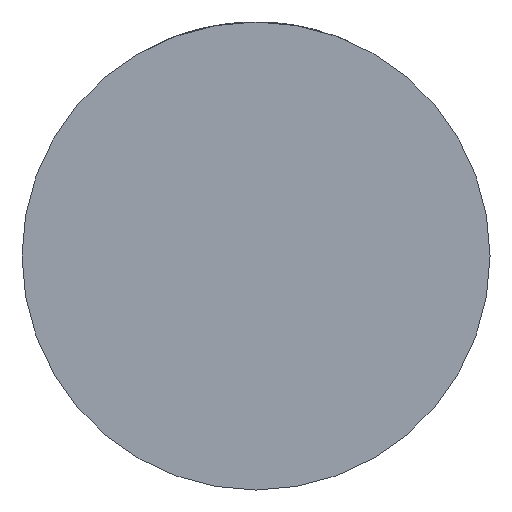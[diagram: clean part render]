
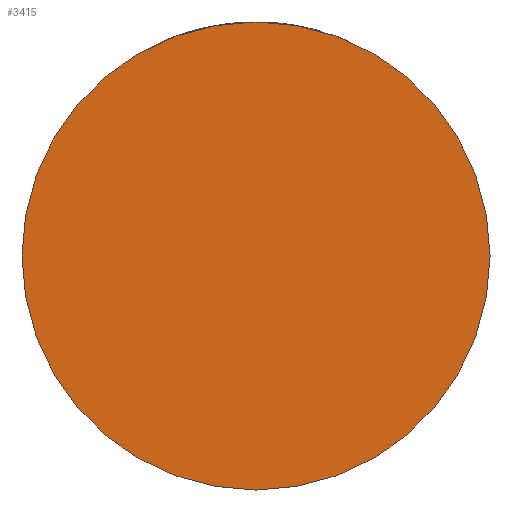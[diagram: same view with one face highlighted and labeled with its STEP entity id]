
A CAD part, front view. The second image highlights one B-rep face of the part: STEP entity #3415.
In plain terms, the highlighted planar face has unit normal (0, -1, 0).
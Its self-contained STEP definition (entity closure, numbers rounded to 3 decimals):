
#135 = VERTEX_POINT ( 'NONE', #4421 ) ;
#279 = DIRECTION ( 'NONE',  ( 1., 0., 0. ) ) ;
#595 = ORIENTED_EDGE ( 'NONE', *, *, #1478, .T. ) ;
#846 = CARTESIAN_POINT ( 'NONE',  ( 0., -25., 0. ) ) ;
#954 = AXIS2_PLACEMENT_3D ( 'NONE', #846, #3985, #2165 ) ;
#1216 = CARTESIAN_POINT ( 'NONE',  ( 0., -25., 0. ) ) ;
#1281 = VERTEX_POINT ( 'NONE', #2842 ) ;
#1478 = EDGE_CURVE ( 'NONE', #1281, #135, #2656, .T. ) ;
#1509 = PLANE ( 'NONE',  #3923 ) ;
#1804 = EDGE_LOOP ( 'NONE', ( #4397, #595 ) ) ;
#2034 = DIRECTION ( 'NONE',  ( 0., -1., 0. ) ) ;
#2165 = DIRECTION ( 'NONE',  ( 1., 0., 0. ) ) ;
#2379 = CARTESIAN_POINT ( 'NONE',  ( 0., -25., 0. ) ) ;
#2544 = DIRECTION ( 'NONE',  ( 1., 0., 0. ) ) ;
#2569 = DIRECTION ( 'NONE',  ( 0., -1., 0. ) ) ;
#2656 = CIRCLE ( 'NONE', #954, 32. ) ;
#2814 = EDGE_CURVE ( 'NONE', #135, #1281, #3556, .T. ) ;
#2842 = CARTESIAN_POINT ( 'NONE',  ( 32., -25., 0. ) ) ;
#3218 = FACE_OUTER_BOUND ( 'NONE', #1804, .T. ) ;
#3415 = ADVANCED_FACE ( 'NONE', ( #3218 ), #1509, .T. ) ;
#3556 = CIRCLE ( 'NONE', #4204, 32. ) ;
#3923 = AXIS2_PLACEMENT_3D ( 'NONE', #1216, #2569, #2544 ) ;
#3985 = DIRECTION ( 'NONE',  ( 0., -1., 0. ) ) ;
#4204 = AXIS2_PLACEMENT_3D ( 'NONE', #2379, #2034, #279 ) ;
#4397 = ORIENTED_EDGE ( 'NONE', *, *, #2814, .T. ) ;
#4421 = CARTESIAN_POINT ( 'NONE',  ( -32., -25., 0. ) ) ;
